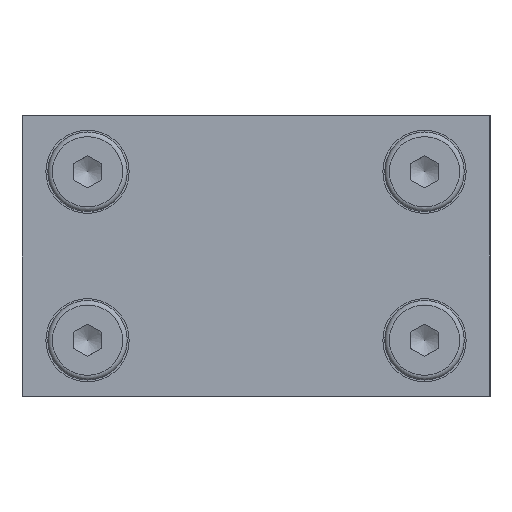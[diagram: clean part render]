
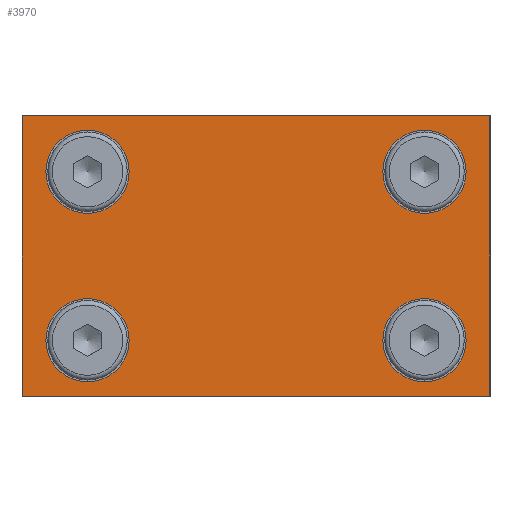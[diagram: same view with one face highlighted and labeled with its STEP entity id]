
A CAD part, left-side view. The second image highlights one B-rep face of the part: STEP entity #3970.
In plain terms, the highlighted planar face has unit normal (-1, 0, 0).
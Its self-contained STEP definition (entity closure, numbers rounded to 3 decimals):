
#183 = CARTESIAN_POINT ( 'NONE',  ( -58.5, 18., 24. ) ) ;
#184 = DIRECTION ( 'NONE',  ( 1., 0., 0. ) ) ;
#185 = DIRECTION ( 'NONE',  ( 0., 1., 0. ) ) ;
#188 = CARTESIAN_POINT ( 'NONE',  ( -58.5, -18., 24. ) ) ;
#191 = CARTESIAN_POINT ( 'NONE',  ( -58.5, 18., 6. ) ) ;
#192 = DIRECTION ( 'NONE',  ( 1., 0., 0. ) ) ;
#193 = DIRECTION ( 'NONE',  ( 0., 1., 0. ) ) ;
#194 = CARTESIAN_POINT ( 'NONE',  ( -58.5, -25., 30. ) ) ;
#195 = DIRECTION ( 'NONE',  ( 0., -1., 0. ) ) ;
#196 = CARTESIAN_POINT ( 'NONE',  ( -58.5, -18., 6. ) ) ;
#199 = DIRECTION ( 'NONE',  ( 1., 0., 0. ) ) ;
#200 = DIRECTION ( 'NONE',  ( 0., 1., 0. ) ) ;
#201 = DIRECTION ( 'NONE',  ( 1., 0., 0. ) ) ;
#202 = DIRECTION ( 'NONE',  ( 0., 1., 0. ) ) ;
#203 = CARTESIAN_POINT ( 'NONE',  ( -58.5, 25., 0. ) ) ;
#204 = DIRECTION ( 'NONE',  ( 0., 1., 0. ) ) ;
#205 = CARTESIAN_POINT ( 'NONE',  ( -58.5, -25., 0. ) ) ;
#206 = DIRECTION ( 'NONE',  ( 0., 0., -1. ) ) ;
#207 = CARTESIAN_POINT ( 'NONE',  ( -58.5, 25., 30. ) ) ;
#208 = DIRECTION ( 'NONE',  ( 0., 0., 1. ) ) ;
#665 = LINE ( 'NONE', #203, #677 ) ;
#668 = CIRCLE ( 'NONE', #11034, 4.45 ) ;
#669 = LINE ( 'NONE', #194, #672 ) ;
#671 = VECTOR ( 'NONE', #206, 1000. ) ;
#672 = VECTOR ( 'NONE', #195, 1000. ) ;
#673 = CIRCLE ( 'NONE', #11036, 4.45 ) ;
#676 = CIRCLE ( 'NONE', #11037, 4.45 ) ;
#677 = VECTOR ( 'NONE', #204, 1000. ) ;
#678 = CIRCLE ( 'NONE', #11039, 4.45 ) ;
#679 = LINE ( 'NONE', #205, #671 ) ;
#680 = LINE ( 'NONE', #207, #681 ) ;
#681 = VECTOR ( 'NONE', #208, 1000. ) ;
#1421 = VERTEX_POINT ( 'NONE', #1422 ) ;
#1422 = CARTESIAN_POINT ( 'NONE',  ( -58.5, 22.45, 24. ) ) ;
#1423 = VERTEX_POINT ( 'NONE', #1424 ) ;
#1424 = CARTESIAN_POINT ( 'NONE',  ( -58.5, -13.55, 24. ) ) ;
#1425 = VERTEX_POINT ( 'NONE', #1426 ) ;
#1426 = CARTESIAN_POINT ( 'NONE',  ( -58.5, -13.55, 6. ) ) ;
#1427 = VERTEX_POINT ( 'NONE', #1428 ) ;
#1428 = CARTESIAN_POINT ( 'NONE',  ( -58.5, 22.45, 6. ) ) ;
#1957 = VERTEX_POINT ( 'NONE', #2669 ) ;
#1958 = VERTEX_POINT ( 'NONE', #2670 ) ;
#1959 = VERTEX_POINT ( 'NONE', #2671 ) ;
#1960 = VERTEX_POINT ( 'NONE', #2672 ) ;
#2669 = CARTESIAN_POINT ( 'NONE',  ( -58.5, 25., 0. ) ) ;
#2670 = CARTESIAN_POINT ( 'NONE',  ( -58.5, 25., 30. ) ) ;
#2671 = CARTESIAN_POINT ( 'NONE',  ( -58.5, -25., 0. ) ) ;
#2672 = CARTESIAN_POINT ( 'NONE',  ( -58.5, -25., 30. ) ) ;
#3203 = EDGE_LOOP ( 'NONE', ( #7323 ) ) ;
#3206 = EDGE_LOOP ( 'NONE', ( #7326 ) ) ;
#3970 = ADVANCED_FACE ( 'NONE', ( #11342, #11340, #11345, #11347, #11343 ), #12516, .T. ) ;
#5002 = EDGE_CURVE ( 'NONE', #1421, #1421, #668, .T. ) ;
#5005 = EDGE_CURVE ( 'NONE', #1423, #1423, #673, .T. ) ;
#5006 = EDGE_CURVE ( 'NONE', #1958, #1960, #669, .T. ) ;
#5008 = EDGE_CURVE ( 'NONE', #1425, #1425, #676, .T. ) ;
#5009 = EDGE_CURVE ( 'NONE', #1427, #1427, #678, .T. ) ;
#5010 = EDGE_CURVE ( 'NONE', #1959, #1957, #665, .T. ) ;
#5011 = EDGE_CURVE ( 'NONE', #1960, #1959, #679, .T. ) ;
#5012 = EDGE_CURVE ( 'NONE', #1957, #1958, #680, .T. ) ;
#5529 = EDGE_LOOP ( 'NONE', ( #7325 ) ) ;
#5530 = EDGE_LOOP ( 'NONE', ( #7324 ) ) ;
#5532 = EDGE_LOOP ( 'NONE', ( #7327, #7328, #7329, #7330 ) ) ;
#7323 = ORIENTED_EDGE ( 'NONE', *, *, #5009, .T. ) ;
#7324 = ORIENTED_EDGE ( 'NONE', *, *, #5002, .T. ) ;
#7325 = ORIENTED_EDGE ( 'NONE', *, *, #5005, .T. ) ;
#7326 = ORIENTED_EDGE ( 'NONE', *, *, #5008, .T. ) ;
#7327 = ORIENTED_EDGE ( 'NONE', *, *, #5011, .F. ) ;
#7328 = ORIENTED_EDGE ( 'NONE', *, *, #5006, .F. ) ;
#7329 = ORIENTED_EDGE ( 'NONE', *, *, #5012, .F. ) ;
#7330 = ORIENTED_EDGE ( 'NONE', *, *, #5010, .F. ) ;
#10780 = AXIS2_PLACEMENT_3D ( 'NONE', #12519, #12525, #12526 ) ;
#11034 = AXIS2_PLACEMENT_3D ( 'NONE', #183, #184, #185 ) ;
#11036 = AXIS2_PLACEMENT_3D ( 'NONE', #188, #192, #193 ) ;
#11037 = AXIS2_PLACEMENT_3D ( 'NONE', #196, #199, #200 ) ;
#11039 = AXIS2_PLACEMENT_3D ( 'NONE', #191, #201, #202 ) ;
#11340 = FACE_BOUND ( 'NONE', #5530, .T. ) ;
#11342 = FACE_BOUND ( 'NONE', #3203, .T. ) ;
#11343 = FACE_OUTER_BOUND ( 'NONE', #5532, .T. ) ;
#11345 = FACE_BOUND ( 'NONE', #5529, .T. ) ;
#11347 = FACE_BOUND ( 'NONE', #3206, .T. ) ;
#12516 = PLANE ( 'NONE',  #10780 ) ;
#12519 = CARTESIAN_POINT ( 'NONE',  ( -58.5, 0., 15. ) ) ;
#12525 = DIRECTION ( 'NONE',  ( -1., 0., 0. ) ) ;
#12526 = DIRECTION ( 'NONE',  ( 0., 0.707, 0.707 ) ) ;
